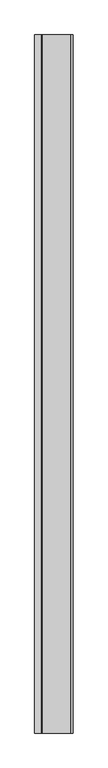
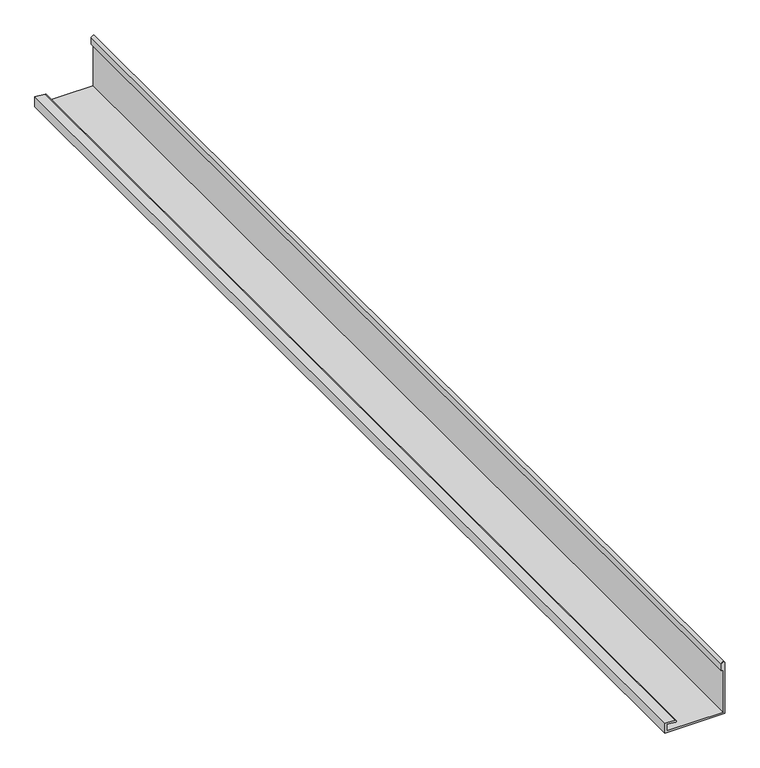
"""IFC4 building model written with IfcOpenShell, lengths in millimetres: proxy geometry, Prefinished Hidden Gutter1 : Prefinished Hidden Gutter."""

from ifc_helpers import new_model, si_unit, point, frame, frame_2d, origin, place, context, project, spatial, polyline, circle_curve, trimmed, segment, composite_curve, outline, extrude, source, transform, mapped, element, save


def generic_models_45f0d053(model_context):
    return source(origin(), model_context, "Body", "SweptSolid", [
        extrude(outline(composite_curve([segment(polyline([(3799.2452806, -27542.5216852), (3799.2452806, -27372.5216852), (3949.6655464, -27372.5216852)]), True, "CONTINUOUS"), segment(trimmed(circle_curve(frame_2d((3949.6655464, -27377.5216852)), 5.0), [point((3949.6655464, -27372.5216852))], [point((3949.6655464, -27382.5216852))], False, "CARTESIAN"), True, "CONTINUOUS"), segment(polyline([(3949.6655464, -27382.5216852), (3929.6655464, -27382.5216852), (3929.6655464, -27377.5216852), (3804.2452806, -27377.5216852), (3804.2452806, -27537.5216852), (3823.7887381, -27537.5216852), (3821.6496348, -27513.071623)]), True, "CONTINUOUS"), segment(trimmed(circle_curve(frame_2d((3824.1401216, -27512.8537336)), 2.5), [point((3821.6496348, -27513.071623))], [point((3826.6306083, -27512.6358443))], False, "CARTESIAN"), True, "CONTINUOUS"), segment(polyline([(3826.6306083, -27512.6358443), (3829.2452806, -27542.5216852), (3799.2452806, -27542.5216852)]), True, "CONTINUOUS")], self_intersect=False)), frame((0.0, -23329.5415677, 0.0), z_axis=(0.0, 1.0, 0.0), x_axis=(0.0, 0.0, 1.0)), (0.0, 0.0, 1.0), 3090.0),
    ])


if __name__ == "__main__":
    model = new_model("IFC4")
    model_context = context("Model", 3, world=origin())
    ifc_project = project(units=[si_unit("LENGTHUNIT", "METRE", prefix="MILLI")], contexts=[model_context])
    site = spatial("IfcSite", under=ifc_project)
    building = spatial("IfcBuilding", under=site)
    placement = place(None, origin())
    generic_models_shape = generic_models_45f0d053(model_context)
    element("IfcBuildingElementProxy", 1, Name="Prefinished Hidden Gutter1 : Prefinished Hidden Gutter", ObjectType="Prefinished Hidden Gutter1 : Prefinished Hidden Gutter", at=placement, inside=building, context=model_context, shape_type="MappedRepresentation", body=[
        mapped(generic_models_shape, transform((0.0, 0.0, 0.0), x_axis=(1.0, 0.0, 0.0), y_axis=(0.0, 1.0, 0.0), z_axis=(0.0, 0.0, 1.0))),
    ])
    save(model, "model.ifc")
